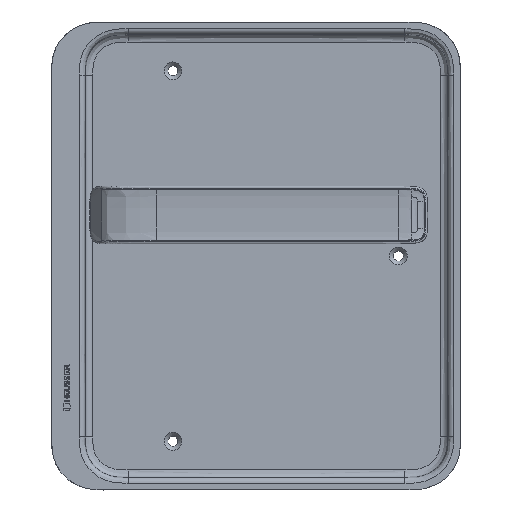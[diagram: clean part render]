
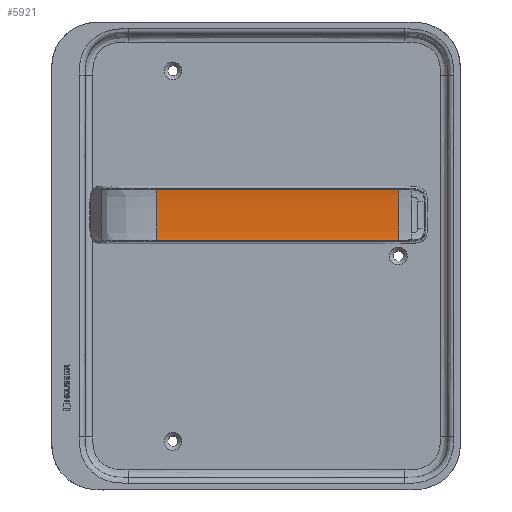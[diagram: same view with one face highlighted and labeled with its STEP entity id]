
A CAD part, top view. The second image highlights one B-rep face of the part: STEP entity #5921.
In plain terms, the highlighted free-form (B-spline) face has degree [1, 5] with [2, 6] control points.
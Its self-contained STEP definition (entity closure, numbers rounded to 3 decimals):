
#267=B_SPLINE_CURVE_WITH_KNOTS('',5,(#13950,#13951,#13952,#13953,#13954,
#13955),.UNSPECIFIED.,.F.,.F.,(6,6),(0.014,0.986),
 .UNSPECIFIED.);
#278=B_SPLINE_CURVE_WITH_KNOTS('',5,(#14137,#14138,#14139,#14140,#14141,
#14142),.UNSPECIFIED.,.F.,.F.,(6,6),(0.014,0.986),
 .UNSPECIFIED.);
#279=B_SPLINE_CURVE_WITH_KNOTS('',5,(#14143,#14144,#14145,#14146,#14147,
#14148,#14149,#14150,#14151,#14152,#14153,#14154,#14155,#14156,#14157),
 .UNSPECIFIED.,.F.,.F.,(6,1,1,1,1,1,1,1,1,1,6),(20.644,20.647,
22.233,23.819,25.404,26.99,28.576,
30.161,31.747,32.54,33.333),
 .UNSPECIFIED.);
#280=B_SPLINE_CURVE_WITH_KNOTS('',3,(#14158,#14159,#14160,#14161,#14162,
#14163,#14164,#14165,#14166,#14167,#14168,#14169,#14170,#14171,#14172,#14173,
#14174,#14175,#14176,#14177,#14178,#14179,#14180,#14181,#14182,#14183,#14184,
#14185),.UNSPECIFIED.,.F.,.F.,(4,3,3,3,3,3,3,3,3,4),(3.015,3.808,
4.601,6.186,7.772,9.358,10.943,
12.529,14.115,15.703),.UNSPECIFIED.);
#458=B_SPLINE_SURFACE_WITH_KNOTS('',1,5,((#14123,#14124,#14125,#14126,#14127,
#14128),(#14129,#14130,#14131,#14132,#14133,#14134)),.UNSPECIFIED.,.F.,
 .F.,.F.,(2,2),(6,6),(0.,1.),(0.,1.),.UNSPECIFIED.);
#1704=FACE_OUTER_BOUND('',#2097,.T.);
#2097=EDGE_LOOP('',(#4913,#4914,#4915,#4916));
#2694=VERTEX_POINT('',#13948);
#2695=VERTEX_POINT('',#13949);
#2706=VERTEX_POINT('',#14135);
#2707=VERTEX_POINT('',#14136);
#3447=EDGE_CURVE('',#2694,#2695,#267,.T.);
#3462=EDGE_CURVE('',#2706,#2707,#278,.T.);
#3463=EDGE_CURVE('',#2694,#2706,#279,.T.);
#3464=EDGE_CURVE('',#2707,#2695,#280,.T.);
#4913=ORIENTED_EDGE('',*,*,#3462,.F.);
#4914=ORIENTED_EDGE('',*,*,#3463,.F.);
#4915=ORIENTED_EDGE('',*,*,#3447,.T.);
#4916=ORIENTED_EDGE('',*,*,#3464,.F.);
#5921=ADVANCED_FACE('',(#1704),#458,.T.);
#13948=CARTESIAN_POINT('',(66.13,16.403,14.44));
#13949=CARTESIAN_POINT('',(66.121,42.914,14.44));
#13950=CARTESIAN_POINT('Ctrl Pts',(66.121,16.403,14.44));
#13951=CARTESIAN_POINT('Ctrl Pts',(66.123,18.551,13.823));
#13952=CARTESIAN_POINT('Ctrl Pts',(66.124,25.43,13.515));
#13953=CARTESIAN_POINT('Ctrl Pts',(66.124,33.886,13.515));
#13954=CARTESIAN_POINT('Ctrl Pts',(66.123,40.766,13.823));
#13955=CARTESIAN_POINT('Ctrl Pts',(66.121,42.914,14.44));
#14123=CARTESIAN_POINT('Ctrl Pts',(-60.73,16.259,14.484));
#14124=CARTESIAN_POINT('Ctrl Pts',(-60.73,18.185,13.832));
#14125=CARTESIAN_POINT('Ctrl Pts',(-60.73,25.262,13.506));
#14126=CARTESIAN_POINT('Ctrl Pts',(-60.73,34.055,13.506));
#14127=CARTESIAN_POINT('Ctrl Pts',(-60.73,41.132,13.832));
#14128=CARTESIAN_POINT('Ctrl Pts',(-60.73,43.059,14.484));
#14129=CARTESIAN_POINT('Ctrl Pts',(66.138,16.259,14.484));
#14130=CARTESIAN_POINT('Ctrl Pts',(66.14,18.185,13.832));
#14131=CARTESIAN_POINT('Ctrl Pts',(66.141,25.262,13.506));
#14132=CARTESIAN_POINT('Ctrl Pts',(66.141,34.055,13.506));
#14133=CARTESIAN_POINT('Ctrl Pts',(66.14,41.132,13.832));
#14134=CARTESIAN_POINT('Ctrl Pts',(66.138,43.059,14.484));
#14135=CARTESIAN_POINT('',(-60.73,16.403,14.439));
#14136=CARTESIAN_POINT('',(-60.73,42.915,14.439));
#14137=CARTESIAN_POINT('Ctrl Pts',(-60.73,16.403,14.439));
#14138=CARTESIAN_POINT('Ctrl Pts',(-60.73,18.551,13.823));
#14139=CARTESIAN_POINT('Ctrl Pts',(-60.73,25.43,13.515));
#14140=CARTESIAN_POINT('Ctrl Pts',(-60.73,33.887,13.515));
#14141=CARTESIAN_POINT('Ctrl Pts',(-60.73,40.766,13.823));
#14142=CARTESIAN_POINT('Ctrl Pts',(-60.73,42.915,14.439));
#14143=CARTESIAN_POINT('Ctrl Pts',(66.13,16.403,14.44));
#14144=CARTESIAN_POINT('Ctrl Pts',(66.122,16.403,14.44));
#14145=CARTESIAN_POINT('Ctrl Pts',(62.977,16.402,14.44));
#14146=CARTESIAN_POINT('Ctrl Pts',(56.641,16.403,14.44));
#14147=CARTESIAN_POINT('Ctrl Pts',(47.087,16.402,14.44));
#14148=CARTESIAN_POINT('Ctrl Pts',(34.408,16.403,14.44));
#14149=CARTESIAN_POINT('Ctrl Pts',(18.558,16.402,14.439));
#14150=CARTESIAN_POINT('Ctrl Pts',(2.691,16.403,14.44));
#14151=CARTESIAN_POINT('Ctrl Pts',(-13.162,16.402,14.439));
#14152=CARTESIAN_POINT('Ctrl Pts',(-27.429,16.403,14.44));
#14153=CARTESIAN_POINT('Ctrl Pts',(-40.118,16.402,14.439));
#14154=CARTESIAN_POINT('Ctrl Pts',(-49.632,16.403,14.44));
#14155=CARTESIAN_POINT('Ctrl Pts',(-55.973,16.403,14.439));
#14156=CARTESIAN_POINT('Ctrl Pts',(-59.144,16.403,14.44));
#14157=CARTESIAN_POINT('Ctrl Pts',(-60.73,16.403,14.439));
#14158=CARTESIAN_POINT('Ctrl Pts',(-60.73,42.915,14.439));
#14159=CARTESIAN_POINT('Ctrl Pts',(-58.087,42.915,14.439));
#14160=CARTESIAN_POINT('Ctrl Pts',(-55.444,42.915,14.439));
#14161=CARTESIAN_POINT('Ctrl Pts',(-52.801,42.915,14.439));
#14162=CARTESIAN_POINT('Ctrl Pts',(-50.159,42.915,14.439));
#14163=CARTESIAN_POINT('Ctrl Pts',(-47.517,42.915,14.439));
#14164=CARTESIAN_POINT('Ctrl Pts',(-44.874,42.915,14.439));
#14165=CARTESIAN_POINT('Ctrl Pts',(-39.589,42.915,14.439));
#14166=CARTESIAN_POINT('Ctrl Pts',(-34.302,42.915,14.439));
#14167=CARTESIAN_POINT('Ctrl Pts',(-29.016,42.915,14.439));
#14168=CARTESIAN_POINT('Ctrl Pts',(-23.73,42.915,14.439));
#14169=CARTESIAN_POINT('Ctrl Pts',(-18.446,42.915,14.439));
#14170=CARTESIAN_POINT('Ctrl Pts',(-13.161,42.915,14.439));
#14171=CARTESIAN_POINT('Ctrl Pts',(-7.877,42.915,14.439));
#14172=CARTESIAN_POINT('Ctrl Pts',(-2.592,42.915,14.439));
#14173=CARTESIAN_POINT('Ctrl Pts',(2.694,42.915,14.439));
#14174=CARTESIAN_POINT('Ctrl Pts',(7.981,42.915,14.439));
#14175=CARTESIAN_POINT('Ctrl Pts',(13.268,42.915,14.44));
#14176=CARTESIAN_POINT('Ctrl Pts',(18.554,42.915,14.44));
#14177=CARTESIAN_POINT('Ctrl Pts',(23.84,42.915,14.44));
#14178=CARTESIAN_POINT('Ctrl Pts',(29.123,42.915,14.44));
#14179=CARTESIAN_POINT('Ctrl Pts',(34.406,42.915,14.44));
#14180=CARTESIAN_POINT('Ctrl Pts',(39.689,42.915,14.44));
#14181=CARTESIAN_POINT('Ctrl Pts',(44.975,42.915,14.44));
#14182=CARTESIAN_POINT('Ctrl Pts',(50.266,42.915,14.44));
#14183=CARTESIAN_POINT('Ctrl Pts',(55.568,42.915,14.44));
#14184=CARTESIAN_POINT('Ctrl Pts',(60.882,42.916,14.44));
#14185=CARTESIAN_POINT('Ctrl Pts',(66.121,42.914,14.44));
